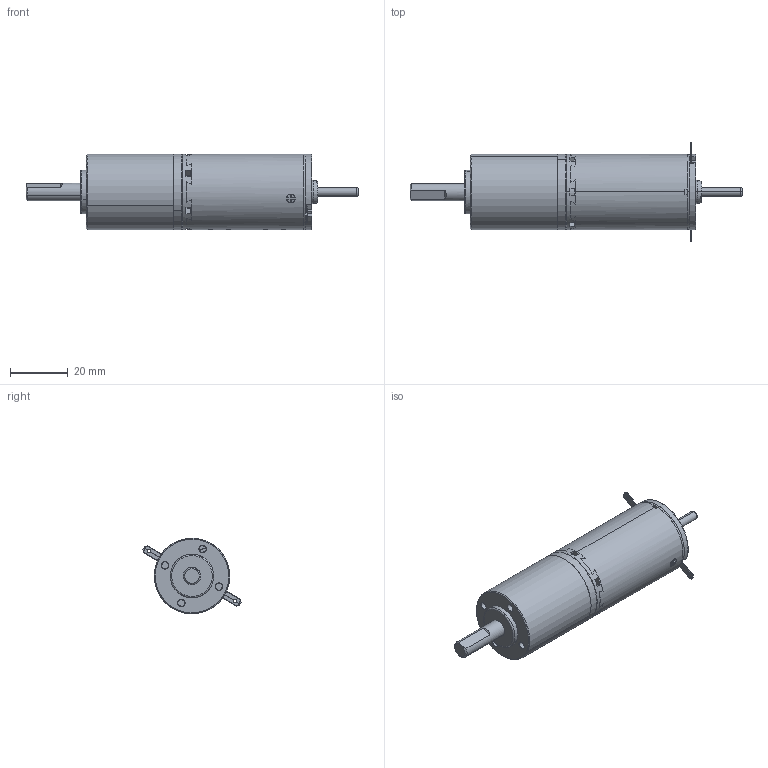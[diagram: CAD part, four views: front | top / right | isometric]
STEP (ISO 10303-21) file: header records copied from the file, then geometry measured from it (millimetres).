
FILE_DESCRIPTION (( 'STEP AP214' ), '1' );
FILE_NAME ('AMAX26CLLHP + GP26A-2 étages.STEP', '2014-11-18T14:58:46', ( '' ), ( '' ), 'SwSTEP 2.0', 'SolidWorks 2013', '' );
FILE_SCHEMA (( 'AUTOMOTIVE_DESIGN' ));
Length unit declared in the file: millimetre
Products named in the file (4): 1005018; GP26A-2st; A-max26-110206; AMAX26CLLHP + GP26A-2 étages
Assembly tree (3 placements, depth 2):
  AMAX26CLLHP + GP26A-2 étages
    A-max26-110206
    GP26A-2st
    1005018
Bounding box: 114.5 x 33.86 x 26 mm (x, y, z)
Volume: 31818.2 mm3; surface area: 13883.2 mm2
Topology: 3 solids, 3 shells, 539 faces, 1472 edges, 962 vertices
Faces by surface type: plane 265, cylinder 193, cone 72, torus 7, bspline 2
Entity records: 18055 total; most frequent: CARTESIAN_POINT 4266, ORIENTED_EDGE 2944, DIRECTION 2816, EDGE_CURVE 1472, AXIS2_PLACEMENT_3D 1038, VERTEX_POINT 962, VECTOR 740, LINE 740
